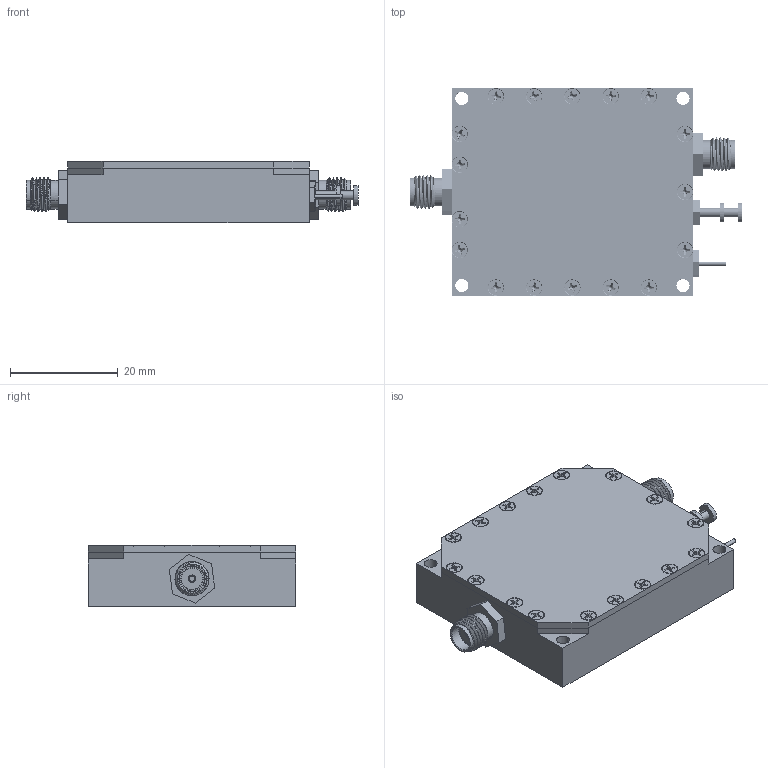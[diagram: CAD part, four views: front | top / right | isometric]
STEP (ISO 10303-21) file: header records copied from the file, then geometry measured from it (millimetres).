
FILE_DESCRIPTION (( 'STEP AP214' ), '1' );
FILE_NAME ('HILNA-CX.STEP', '2025-03-31T13:38:04', ( '' ), ( '' ), 'SwSTEP 2.0', 'SolidWorks 2021', '' );
FILE_SCHEMA (( 'AUTOMOTIVE_DESIGN' ));
Length unit declared in the file: inch
Products named in the file (7): 6002-1730_91375A203; 6002-1721; 91771A054_91771A054; 20-602-5020; 160-1582-01-01-00_92446A103; HILNA-CX; 6002-1720
Assembly tree (23 placements, depth 2):
  HILNA-CX
    6002-1720
    6002-1721
    20-602-5020  x2
    6002-1730_91375A203
    160-1582-01-01-00_92446A103
    91771A054_91771A054  x17
Bounding box: 61.75 x 38.61 x 11.43 mm (x, y, z)
Volume: 10995.3 mm3; surface area: 13721.4 mm2
Topology: 29 solids, 30 shells, 2740 faces, 7002 edges, 4297 vertices
Faces by surface type: cone 1246, cylinder 1002, plane 465, bspline 27
Entity records: 25563 total; most frequent: CARTESIAN_POINT 9934, ORIENTED_EDGE 2984, DIRECTION 2917, EDGE_CURVE 1492, AXIS2_PLACEMENT_3D 1092, VERTEX_POINT 939, VECTOR 733, LINE 733
